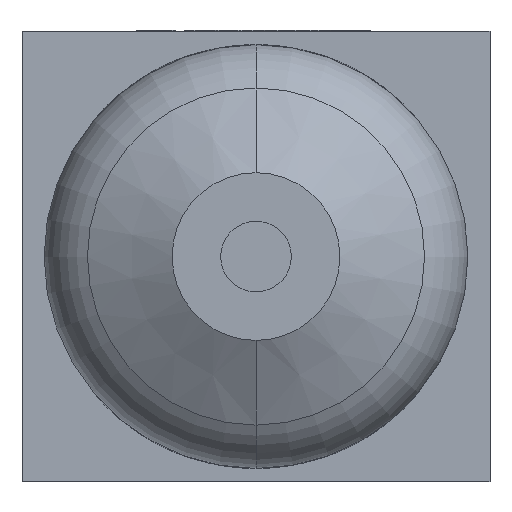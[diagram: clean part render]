
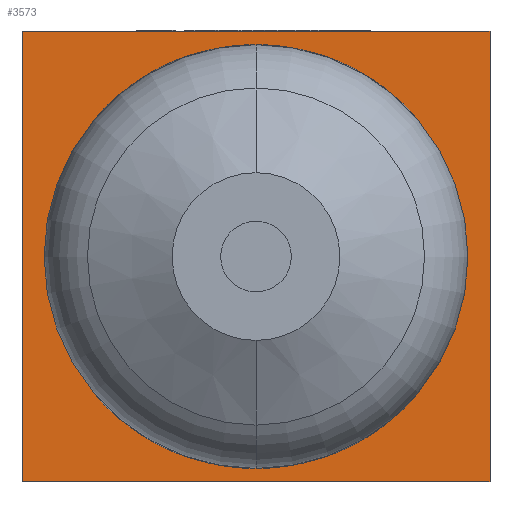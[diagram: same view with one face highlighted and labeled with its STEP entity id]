
A CAD part, front view. The second image highlights one B-rep face of the part: STEP entity #3573.
In plain terms, the highlighted planar face has unit normal (0, -1, 0).
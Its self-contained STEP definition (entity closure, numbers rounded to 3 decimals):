
#344 = CARTESIAN_POINT ( 'NONE',  ( -26.5, -25.5, 25.5 ) ) ;
#515 = DIRECTION ( 'NONE',  ( 1., 0., 0. ) ) ;
#611 = CARTESIAN_POINT ( 'NONE',  ( -26.5, -25.5, -25.5 ) ) ;
#765 = ORIENTED_EDGE ( 'NONE', *, *, #16748, .F. ) ;
#2327 = DIRECTION ( 'NONE',  ( 0., 1., 0. ) ) ;
#2732 = VERTEX_POINT ( 'NONE', #21070 ) ;
#2951 = DIRECTION ( 'NONE',  ( 0., 0., -1. ) ) ;
#3573 = ADVANCED_FACE ( 'NONE', ( #21280 ), #10300, .F. ) ;
#3692 = DIRECTION ( 'NONE',  ( -1., 0., 0. ) ) ;
#4395 = VERTEX_POINT ( 'NONE', #611 ) ;
#5631 = LINE ( 'NONE', #18751, #6075 ) ;
#5669 = CARTESIAN_POINT ( 'NONE',  ( 26.5, -25.5, 25.5 ) ) ;
#6075 = VECTOR ( 'NONE', #16688, 1000. ) ;
#6541 = VECTOR ( 'NONE', #2951, 1000. ) ;
#6607 = EDGE_CURVE ( 'NONE', #7009, #4395, #5631, .T. ) ;
#7009 = VERTEX_POINT ( 'NONE', #10679 ) ;
#8799 = LINE ( 'NONE', #18062, #14818 ) ;
#8804 = EDGE_LOOP ( 'NONE', ( #11665, #16861, #765, #12070 ) ) ;
#10300 = PLANE ( 'NONE',  #16325 ) ;
#10679 = CARTESIAN_POINT ( 'NONE',  ( -26.5, -25.5, 25.5 ) ) ;
#11282 = VERTEX_POINT ( 'NONE', #20925 ) ;
#11665 = ORIENTED_EDGE ( 'NONE', *, *, #16892, .T. ) ;
#12070 = ORIENTED_EDGE ( 'NONE', *, *, #6607, .T. ) ;
#12264 = LINE ( 'NONE', #5669, #6541 ) ;
#12363 = EDGE_CURVE ( 'NONE', #11282, #2732, #12264, .T. ) ;
#13615 = LINE ( 'NONE', #14945, #20082 ) ;
#14818 = VECTOR ( 'NONE', #19766, 1000. ) ;
#14945 = CARTESIAN_POINT ( 'NONE',  ( -26.5, -25.5, -25.5 ) ) ;
#16325 = AXIS2_PLACEMENT_3D ( 'NONE', #344, #2327, #3692 ) ;
#16688 = DIRECTION ( 'NONE',  ( 0., 0., -1. ) ) ;
#16748 = EDGE_CURVE ( 'NONE', #7009, #11282, #8799, .T. ) ;
#16861 = ORIENTED_EDGE ( 'NONE', *, *, #12363, .F. ) ;
#16892 = EDGE_CURVE ( 'NONE', #4395, #2732, #13615, .T. ) ;
#18062 = CARTESIAN_POINT ( 'NONE',  ( -26.5, -25.5, 25.5 ) ) ;
#18751 = CARTESIAN_POINT ( 'NONE',  ( -26.5, -25.5, 25.5 ) ) ;
#19766 = DIRECTION ( 'NONE',  ( 1., 0., 0. ) ) ;
#20082 = VECTOR ( 'NONE', #515, 1000. ) ;
#20925 = CARTESIAN_POINT ( 'NONE',  ( 26.5, -25.5, 25.5 ) ) ;
#21070 = CARTESIAN_POINT ( 'NONE',  ( 26.5, -25.5, -25.5 ) ) ;
#21280 = FACE_OUTER_BOUND ( 'NONE', #8804, .T. ) ;
